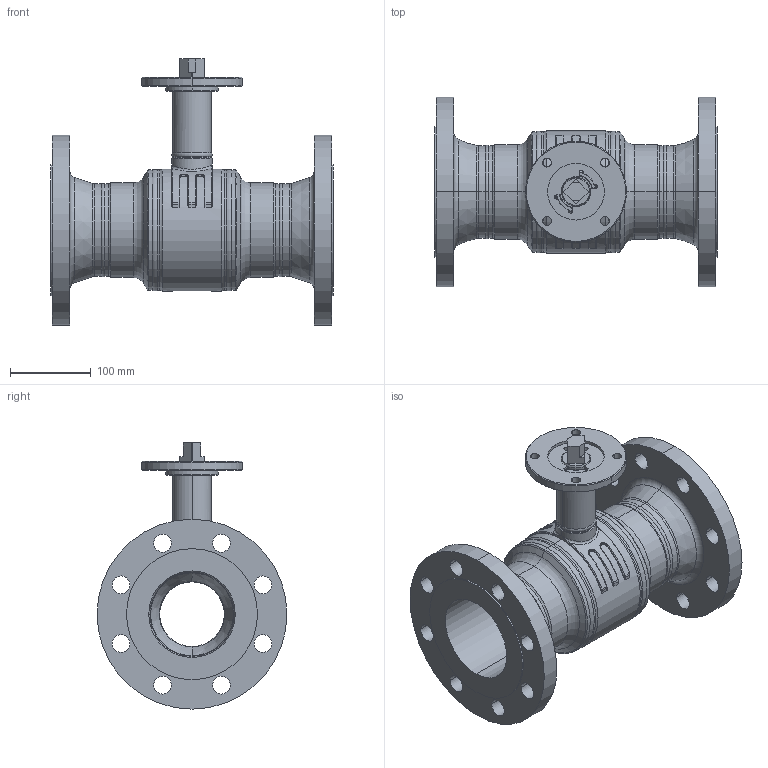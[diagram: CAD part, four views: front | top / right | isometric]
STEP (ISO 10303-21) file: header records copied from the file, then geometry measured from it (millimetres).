
FILE_DESCRIPTION((''),'2;1');
FILE_NAME('KHMO-F-R-H-100R080P04_SW0001','2025-04-23T08:50:53',('jeitlers'),('KLINGER'),'CREO PARAMETRIC BY PTC INC, 2023014','CREO PARAMETRIC BY PTC INC, 2023014','');
FILE_SCHEMA(('CONFIG_CONTROL_DESIGN'));
Length unit declared in the file: millimetre
Products named in the file (1): KHMO-F-R-H-100R080P04_SW0001
Bounding box: 350 x 235 x 329.5 mm (x, y, z)
Volume: 3096946.2 mm3; surface area: 585743.6 mm2
Topology: 3 solids, 3 shells, 501 faces, 1189 edges, 722 vertices
Faces by surface type: cylinder 198, torus 106, plane 87, cone 82, bspline 28
Entity records: 21580 total; most frequent: CARTESIAN_POINT 9571, DIRECTION 2759, ORIENTED_EDGE 2378, EDGE_CURVE 1189, AXIS2_PLACEMENT_3D 1179, VERTEX_POINT 722, CIRCLE 706, EDGE_LOOP 579
